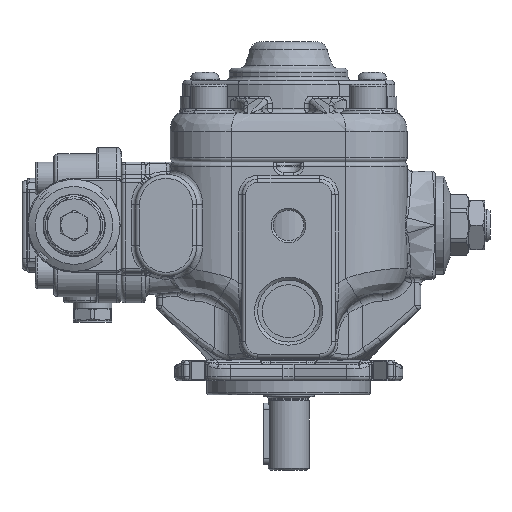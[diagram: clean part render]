
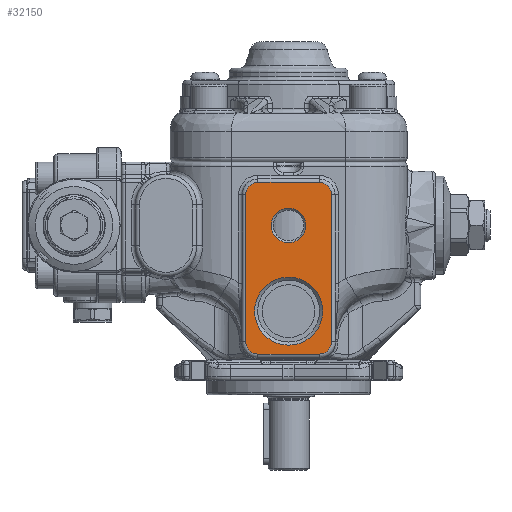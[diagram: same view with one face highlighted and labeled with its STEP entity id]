
A CAD part, left-side view. The second image highlights one B-rep face of the part: STEP entity #32150.
In plain terms, the highlighted planar face has unit normal (-1, 0, 0).
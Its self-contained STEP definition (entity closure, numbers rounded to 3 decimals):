
#2211=FACE_BOUND('',#7530,.T.);
#2212=FACE_BOUND('',#7531,.T.);
#3383=CIRCLE('',#35056,16.646);
#3388=CIRCLE('',#35063,6.);
#3389=CIRCLE('',#35064,6.);
#3390=CIRCLE('',#35065,6.);
#3391=CIRCLE('',#35066,6.);
#3392=CIRCLE('',#35067,8.475);
#5534=FACE_OUTER_BOUND('',#7529,.T.);
#7529=EDGE_LOOP('',(#24134,#24135,#24136,#24137,#24138,#24139,#24140,#24141));
#7530=EDGE_LOOP('',(#24142));
#7531=EDGE_LOOP('',(#24143));
#9319=LINE('',#57903,#10691);
#9320=LINE('',#57907,#10692);
#9321=LINE('',#57911,#10693);
#9322=LINE('',#57915,#10694);
#10691=VECTOR('',#41415,10.);
#10692=VECTOR('',#41418,10.);
#10693=VECTOR('',#41421,10.);
#10694=VECTOR('',#41424,10.);
#13180=VERTEX_POINT('',#57887);
#13185=VERTEX_POINT('',#57901);
#13186=VERTEX_POINT('',#57902);
#13187=VERTEX_POINT('',#57904);
#13188=VERTEX_POINT('',#57906);
#13189=VERTEX_POINT('',#57908);
#13190=VERTEX_POINT('',#57910);
#13191=VERTEX_POINT('',#57912);
#13192=VERTEX_POINT('',#57914);
#13193=VERTEX_POINT('',#57917);
#17006=EDGE_CURVE('',#13180,#13180,#3383,.T.);
#17013=EDGE_CURVE('',#13185,#13186,#9319,.T.);
#17014=EDGE_CURVE('',#13187,#13185,#3388,.T.);
#17015=EDGE_CURVE('',#13188,#13187,#9320,.T.);
#17016=EDGE_CURVE('',#13189,#13188,#3389,.T.);
#17017=EDGE_CURVE('',#13190,#13189,#9321,.T.);
#17018=EDGE_CURVE('',#13191,#13190,#3390,.T.);
#17019=EDGE_CURVE('',#13192,#13191,#9322,.T.);
#17020=EDGE_CURVE('',#13186,#13192,#3391,.T.);
#17021=EDGE_CURVE('',#13193,#13193,#3392,.T.);
#24134=ORIENTED_EDGE('',*,*,#17013,.F.);
#24135=ORIENTED_EDGE('',*,*,#17014,.F.);
#24136=ORIENTED_EDGE('',*,*,#17015,.F.);
#24137=ORIENTED_EDGE('',*,*,#17016,.F.);
#24138=ORIENTED_EDGE('',*,*,#17017,.F.);
#24139=ORIENTED_EDGE('',*,*,#17018,.F.);
#24140=ORIENTED_EDGE('',*,*,#17019,.F.);
#24141=ORIENTED_EDGE('',*,*,#17020,.F.);
#24142=ORIENTED_EDGE('',*,*,#17021,.F.);
#24143=ORIENTED_EDGE('',*,*,#17006,.F.);
#28947=PLANE('',#35062);
#32150=ADVANCED_FACE('',(#5534,#2211,#2212),#28947,.F.);
#35056=AXIS2_PLACEMENT_3D('',#57888,#41399,#41400);
#35062=AXIS2_PLACEMENT_3D('',#57900,#41413,#41414);
#35063=AXIS2_PLACEMENT_3D('',#57905,#41416,#41417);
#35064=AXIS2_PLACEMENT_3D('',#57909,#41419,#41420);
#35065=AXIS2_PLACEMENT_3D('',#57913,#41422,#41423);
#35066=AXIS2_PLACEMENT_3D('',#57916,#41425,#41426);
#35067=AXIS2_PLACEMENT_3D('',#57918,#41427,#41428);
#41399=DIRECTION('center_axis',(-1.,0.,0.));
#41400=DIRECTION('ref_axis',(0.,-1.,0.));
#41413=DIRECTION('center_axis',(1.,0.,0.));
#41414=DIRECTION('ref_axis',(0.,0.,-1.));
#41415=DIRECTION('',(0.,0.,1.));
#41416=DIRECTION('center_axis',(1.,0.,0.));
#41417=DIRECTION('ref_axis',(0.,0.707,-0.707));
#41418=DIRECTION('',(0.,1.,0.));
#41419=DIRECTION('center_axis',(1.,0.,0.));
#41420=DIRECTION('ref_axis',(0.,-0.707,-0.707));
#41421=DIRECTION('',(0.,0.,-1.));
#41422=DIRECTION('center_axis',(1.,0.,0.));
#41423=DIRECTION('ref_axis',(0.,-0.707,0.707));
#41424=DIRECTION('',(0.,-1.,0.));
#41425=DIRECTION('center_axis',(1.,0.,0.));
#41426=DIRECTION('ref_axis',(0.,0.707,0.707));
#41427=DIRECTION('center_axis',(-1.,0.,0.));
#41428=DIRECTION('ref_axis',(0.,-1.,0.));
#57887=CARTESIAN_POINT('',(-76.54,4.642,-22.748));
#57888=CARTESIAN_POINT('Origin',(-76.54,-12.004,-22.748));
#57900=CARTESIAN_POINT('Origin',(-76.54,-12.004,-1.748));
#57901=CARTESIAN_POINT('',(-76.54,8.996,-37.748));
#57902=CARTESIAN_POINT('',(-76.54,8.996,34.252));
#57903=CARTESIAN_POINT('',(-76.54,8.996,16.252));
#57904=CARTESIAN_POINT('',(-76.54,2.996,-43.748));
#57905=CARTESIAN_POINT('Origin',(-76.54,2.996,-37.748));
#57906=CARTESIAN_POINT('',(-76.54,-27.004,-43.748));
#57907=CARTESIAN_POINT('',(-76.54,-4.504,-43.748));
#57908=CARTESIAN_POINT('',(-76.54,-33.004,-37.748));
#57909=CARTESIAN_POINT('Origin',(-76.54,-27.004,-37.748));
#57910=CARTESIAN_POINT('',(-76.54,-33.004,34.252));
#57911=CARTESIAN_POINT('',(-76.54,-33.004,-19.748));
#57912=CARTESIAN_POINT('',(-76.54,-27.004,40.252));
#57913=CARTESIAN_POINT('Origin',(-76.54,-27.004,34.252));
#57914=CARTESIAN_POINT('',(-76.54,2.996,40.252));
#57915=CARTESIAN_POINT('',(-76.54,-19.504,40.252));
#57916=CARTESIAN_POINT('Origin',(-76.54,2.996,34.252));
#57917=CARTESIAN_POINT('',(-76.54,-3.529,19.252));
#57918=CARTESIAN_POINT('Origin',(-76.54,-12.004,19.252));
